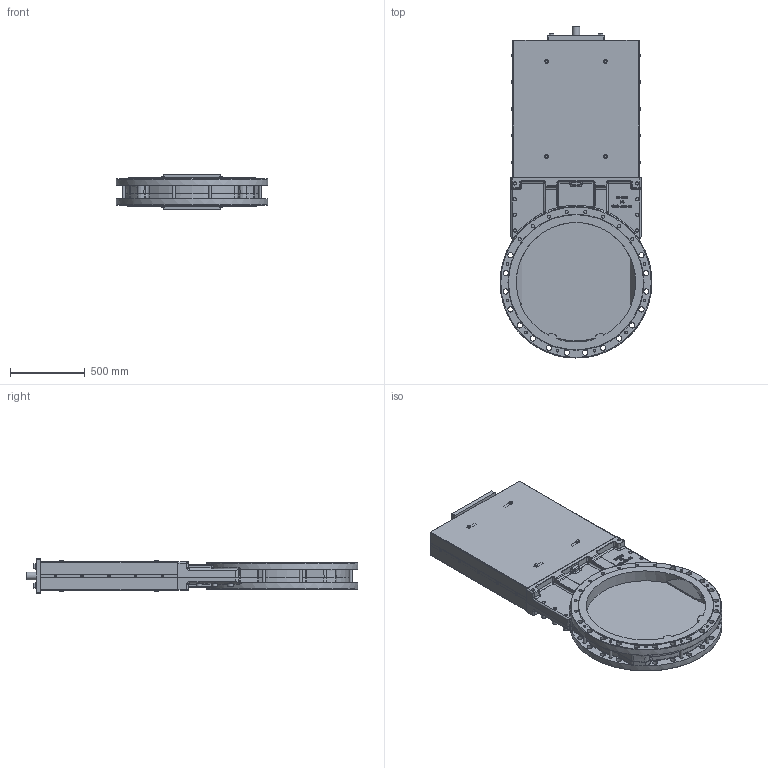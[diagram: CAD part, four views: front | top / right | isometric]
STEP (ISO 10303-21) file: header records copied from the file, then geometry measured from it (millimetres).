
FILE_DESCRIPTION(/* description */ (''),/* implementation_level */ '2;1');
FILE_NAME(/* name */ '明杆刀阀带上法兰 DN800简图.stp',/* time_stamp */ '2025-12-20T12:41:07+08:00',/* author */ (''),/* organization */ (''),/* preprocessor_version */ 'ST-DEVELOPER v15',/* originating_system */ 'SIEMENS PLM Software NX 10.0',/* authorisation */ '');
FILE_SCHEMA (('AP203_CONFIGURATION_CONTROLLED_3D_DESIGN_OF_MECHANICAL_PARTS_AND_ASSEMBLIES_MIM_LF { 1 0 10303 403 2 1 2}'));
Products named in the file (1): 36A882E2gi6d
Bounding box: 1017.17 x 2224.11 x 230 mm (x, y, z)
Volume: 103276290.4 mm3; surface area: 9300161 mm2
Topology: 1 solids, 52 shells, 2879 faces, 6888 edges, 4406 vertices
Faces by surface type: plane 1384, cylinder 702, cone 354, extrusion 222, bspline 162, torus 39, sphere 16
Full cylindrical faces by diameter (mm): 7.323 x10, 8 x20, 8.4 x10, 9 x10, 10.2 x6, 11.053 x8, 11.4 x10, 12 x8, 13 x8, 14 x28, 16 x50, 17 x20, 17.2 x8, 18 x28, 19.053 x4, 20 x12, 21 x28, 21.5 x4, 22 x12, 24 x16, 24.889 x6, 26 x8, 27 x4, 29.63 x8, 30 x20, 33 x8, 35 x30, 35.556 x8, 37 x4, 38 x2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
Entity records: 95736 total; most frequent: CARTESIAN_POINT 25483, ORIENTED_EDGE 11726, DIRECTION 11306, EDGE_CURVE 5863, AXIS2_PLACEMENT_3D 4427, VERTEX_POINT 4101, EDGE_LOOP 4094, ADVANCED_FACE 2879
